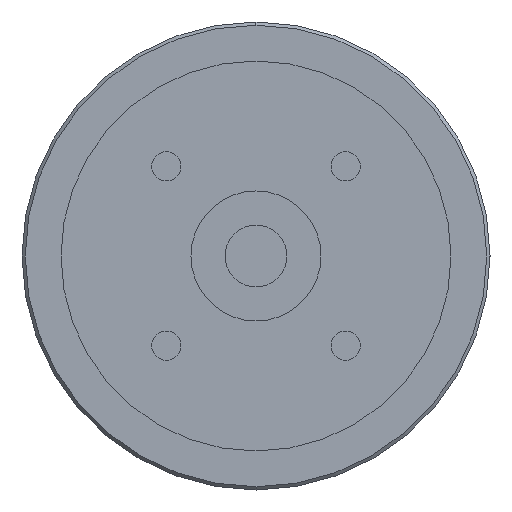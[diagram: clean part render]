
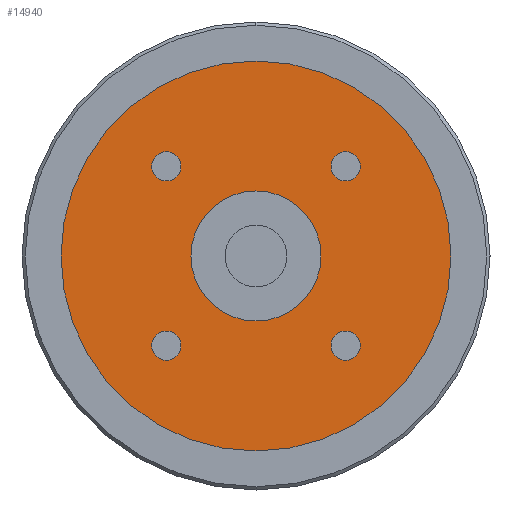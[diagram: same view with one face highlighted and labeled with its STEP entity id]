
A CAD part, left-side view. The second image highlights one B-rep face of the part: STEP entity #14940.
In plain terms, the highlighted planar face has unit normal (-1, 0, 0) as drawn and (0, 0, -1) by its records, which use the part's own axes.
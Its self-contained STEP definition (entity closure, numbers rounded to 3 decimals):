
#11930=CARTESIAN_POINT('',(13.789,-11.539,-91.));
#11940=VERTEX_POINT('',#11930);
#12120=CARTESIAN_POINT('',(13.789,-16.039,-91.));
#12130=VERTEX_POINT('',#12120);
#12160=CARTESIAN_POINT('',(13.789,-13.789,-91.));
#12170=DIRECTION('',(0.,0.,-1.));
#12180=DIRECTION('',(1.,0.,0.));
#12190=AXIS2_PLACEMENT_3D('',#12160,#12170,#12180);
#12200=CIRCLE('',#12190,2.25);
#12210=CARTESIAN_POINT('',(16.039,-13.789,-91.));
#12220=VERTEX_POINT('',#12210);
#12230=EDGE_CURVE('',#12220,#12130,#12200,.T.);
#12250=EDGE_CURVE('',#11940,#12220,#12200,.T.);
#12350=CARTESIAN_POINT('',(0.,0.,
-91.));
#12360=DIRECTION('',(0.,0.,1.));
#12370=DIRECTION('',(0.,-1.,0.));
#12380=AXIS2_PLACEMENT_3D('',#12350,#12360,#12370);
#12390=CIRCLE('',#12380,10.);
#12400=CARTESIAN_POINT('',(0.,-10.,-91.));
#12410=VERTEX_POINT('',#12400);
#12420=CARTESIAN_POINT('',(10.,0.,-91.))
;
#12430=VERTEX_POINT('',#12420);
#12440=EDGE_CURVE('',#12410,#12430,#12390,.T.);
#12710=CARTESIAN_POINT('',(-10.,0.,-91.));
#12720=VERTEX_POINT('',#12710);
#12750=EDGE_CURVE('',#12720,#12410,#12390,.T.);
#13870=CARTESIAN_POINT('',(30.,0.,-91.));
#13880=VERTEX_POINT('',#13870);
#13910=CARTESIAN_POINT('',(0.,0.,
-91.));
#13920=DIRECTION('',(0.,0.,1.));
#13930=DIRECTION('',(0.,-1.,0.));
#13940=AXIS2_PLACEMENT_3D('',#13910,#13920,#13930);
#13950=CIRCLE('',#13940,30.);
#13960=CARTESIAN_POINT('',(0.,-30.,-91.));
#13970=VERTEX_POINT('',#13960);
#13980=EDGE_CURVE('',#13970,#13880,#13950,.T.);
#14000=CARTESIAN_POINT('',(-30.,0.,-91.));
#14010=VERTEX_POINT('',#14000);
#14020=EDGE_CURVE('',#14010,#13970,#13950,.T.);
#14140=CARTESIAN_POINT('',(0.,0.,
-91.));
#14150=DIRECTION('',(0.,0.,1.));
#14160=DIRECTION('',(-1.,0.,0.));
#14170=AXIS2_PLACEMENT_3D('',#14140,#14150,#14160);
#14180=PLANE('',#14170);
#14190=CARTESIAN_POINT('',(13.789,13.789,-91.));
#14200=DIRECTION('',(0.,0.,-1.));
#14210=DIRECTION('',(0.,1.,0.));
#14220=AXIS2_PLACEMENT_3D('',#14190,#14200,#14210);
#14230=CIRCLE('',#14220,2.25);
#14240=CARTESIAN_POINT('',(13.789,16.039,-91.));
#14250=VERTEX_POINT('',#14240);
#14260=CARTESIAN_POINT('',(16.039,13.789,-91.));
#14270=VERTEX_POINT('',#14260);
#14280=EDGE_CURVE('',#14250,#14270,#14230,.T.);
#14290=ORIENTED_EDGE('',*,*,#14280,.F.);
#14300=CARTESIAN_POINT('',(11.539,13.789,-91.));
#14310=VERTEX_POINT('',#14300);
#14320=EDGE_CURVE('',#14270,#14310,#14230,.T.);
#14330=ORIENTED_EDGE('',*,*,#14320,.F.);
#14340=EDGE_CURVE('',#14310,#14250,#14230,.T.);
#14350=ORIENTED_EDGE('',*,*,#14340,.F.);
#14360=EDGE_LOOP('',(#14350,#14330,#14290));
#14370=FACE_BOUND('',#14360,.T.);
#14380=CARTESIAN_POINT('',(-13.789,13.789,-91.));
#14390=DIRECTION('',(0.,0.,-1.));
#14400=DIRECTION('',(-1.,0.,0.));
#14410=AXIS2_PLACEMENT_3D('',#14380,#14390,#14400);
#14420=CIRCLE('',#14410,2.25);
#14430=CARTESIAN_POINT('',(-16.039,13.789,-91.));
#14440=VERTEX_POINT('',#14430);
#14450=CARTESIAN_POINT('',(-13.789,16.039,-91.));
#14460=VERTEX_POINT('',#14450);
#14470=EDGE_CURVE('',#14440,#14460,#14420,.T.);
#14480=ORIENTED_EDGE('',*,*,#14470,.F.);
#14490=CARTESIAN_POINT('',(-13.789,11.539,-91.));
#14500=VERTEX_POINT('',#14490);
#14510=EDGE_CURVE('',#14460,#14500,#14420,.T.);
#14520=ORIENTED_EDGE('',*,*,#14510,.F.);
#14530=EDGE_CURVE('',#14500,#14440,#14420,.T.);
#14540=ORIENTED_EDGE('',*,*,#14530,.F.);
#14550=EDGE_LOOP('',(#14540,#14520,#14480));
#14560=FACE_BOUND('',#14550,.T.);
#14570=CARTESIAN_POINT('',(-13.789,-13.789,-91.));
#14580=DIRECTION('',(0.,0.,-1.));
#14590=DIRECTION('',(0.,-1.,0.));
#14600=AXIS2_PLACEMENT_3D('',#14570,#14580,#14590);
#14610=CIRCLE('',#14600,2.25);
#14620=CARTESIAN_POINT('',(-13.789,-16.039,-91.));
#14630=VERTEX_POINT('',#14620);
#14640=CARTESIAN_POINT('',(-16.039,-13.789,-91.));
#14650=VERTEX_POINT('',#14640);
#14660=EDGE_CURVE('',#14630,#14650,#14610,.T.);
#14670=ORIENTED_EDGE('',*,*,#14660,.F.);
#14680=CARTESIAN_POINT('',(-11.539,-13.789,-91.));
#14690=VERTEX_POINT('',#14680);
#14700=EDGE_CURVE('',#14650,#14690,#14610,.T.);
#14710=ORIENTED_EDGE('',*,*,#14700,.F.);
#14720=EDGE_CURVE('',#14690,#14630,#14610,.T.);
#14730=ORIENTED_EDGE('',*,*,#14720,.F.);
#14740=EDGE_LOOP('',(#14730,#14710,#14670));
#14750=FACE_BOUND('',#14740,.T.);
#14760=EDGE_CURVE('',#12430,#12720,#12390,.T.);
#14770=ORIENTED_EDGE('',*,*,#14760,.T.);
#14780=ORIENTED_EDGE('',*,*,#12440,.T.);
#14790=ORIENTED_EDGE('',*,*,#12750,.T.);
#14800=EDGE_LOOP('',(#14790,#14780,#14770));
#14810=FACE_BOUND('',#14800,.T.);
#14820=ORIENTED_EDGE('',*,*,#12230,.F.);
#14830=EDGE_CURVE('',#12130,#11940,#12200,.T.);
#14840=ORIENTED_EDGE('',*,*,#14830,.F.);
#14850=ORIENTED_EDGE('',*,*,#12250,.F.);
#14860=EDGE_LOOP('',(#14850,#14840,#14820));
#14870=FACE_BOUND('',#14860,.T.);
#14880=ORIENTED_EDGE('',*,*,#13980,.F.);
#14890=EDGE_CURVE('',#13880,#14010,#13950,.T.);
#14900=ORIENTED_EDGE('',*,*,#14890,.F.);
#14910=ORIENTED_EDGE('',*,*,#14020,.F.);
#14920=EDGE_LOOP('',(#14910,#14900,#14880));
#14930=FACE_OUTER_BOUND('',#14920,.T.);
#14940=ADVANCED_FACE('',(#14370,#14560,#14750,#14810,#14870,#14930),
#14180,.F.);
